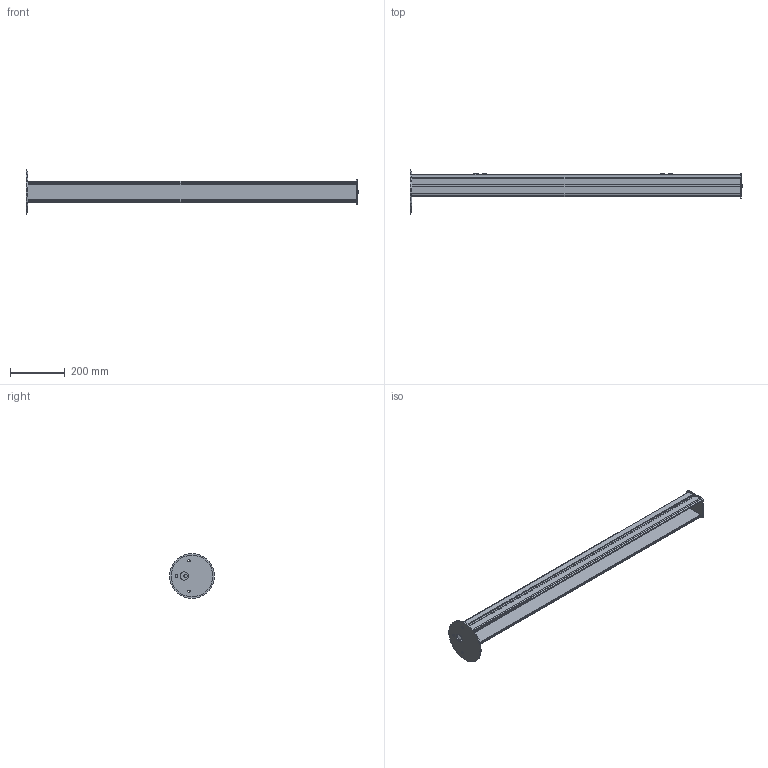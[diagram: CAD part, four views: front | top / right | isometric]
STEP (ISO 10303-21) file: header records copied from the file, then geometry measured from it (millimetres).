
FILE_DESCRIPTION( ( 'STEP AP203' ), '1' );
FILE_NAME( 'p:/temp/worker_91/temp/exporttempdir_3320_91_TxPlV/format_1/EY5051.stp', '2022-03-15T10:47:31', ( 'License CC BY-ND 4.0' ), ( 'CADENAS' ), ' ', 'PARTsolutions', ' ' );
FILE_SCHEMA( ( 'CONFIG_CONTROL_DESIGN' ) );
Length unit declared in the file: millimetre
Products named in the file (1): _EY5051
Bounding box: 1211.8 x 163.7 x 163.7 mm (x, y, z)
Volume: 2270927.8 mm3; surface area: 642256.7 mm2
Topology: 1 solids, 1 shells, 190 faces, 526 edges, 350 vertices
Faces by surface type: plane 111, cylinder 74, torus 4, cone 1
Full cylindrical faces by diameter (mm): 5.77 x3, 6 x4, 8.5 x3, 13 x1, 30 x1, 163.7 x1
Entity records: 6084 total; most frequent: CARTESIAN_POINT 1149, DIRECTION 1034, ORIENTED_EDGE 1004, EDGE_CURVE 502, AXIS2_PLACEMENT_3D 365, VERTEX_POINT 344, LINE 304, VECTOR 304
